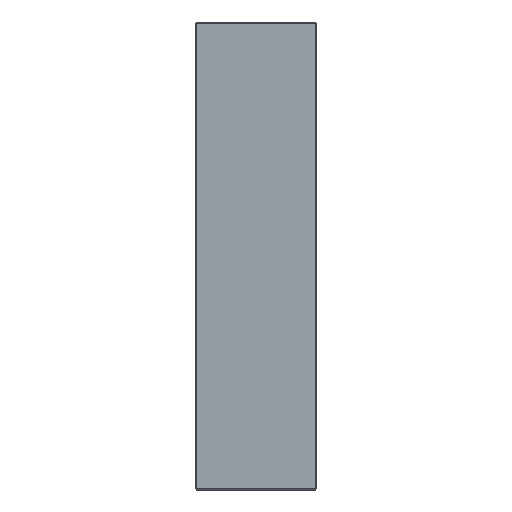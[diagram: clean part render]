
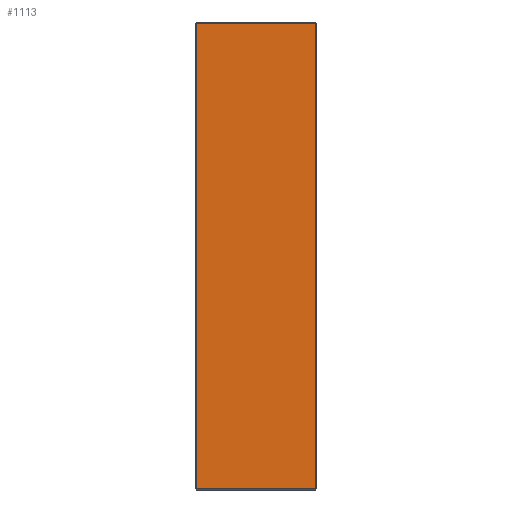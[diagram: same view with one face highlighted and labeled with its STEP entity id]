
A CAD part, left-side view. The second image highlights one B-rep face of the part: STEP entity #1113.
In plain terms, the highlighted planar face has unit normal (-1, 0, 0).
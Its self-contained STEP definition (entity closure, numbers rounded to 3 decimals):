
#1 = CARTESIAN_POINT ( 'NONE',  ( -223., 116., 223. ) ) ;
#12 = LINE ( 'NONE', #1258, #1778 ) ;
#74 = EDGE_CURVE ( 'NONE', #1705, #884, #380, .T. ) ;
#88 = EDGE_LOOP ( 'NONE', ( #1043, #856, #829, #827 ) ) ;
#166 = DIRECTION ( 'NONE',  ( 1., 0., 0. ) ) ;
#328 = VECTOR ( 'NONE', #1099, 1000. ) ;
#338 = PLANE ( 'NONE',  #799 ) ;
#364 = EDGE_CURVE ( 'NONE', #884, #757, #1901, .T. ) ;
#380 = LINE ( 'NONE', #1765, #328 ) ;
#439 = CARTESIAN_POINT ( 'NONE',  ( -223., 115., 223. ) ) ;
#570 = VERTEX_POINT ( 'NONE', #766 ) ;
#757 = VERTEX_POINT ( 'NONE', #776 ) ;
#766 = CARTESIAN_POINT ( 'NONE',  ( -223., 115., -222. ) ) ;
#776 = CARTESIAN_POINT ( 'NONE',  ( -223., 115., 222. ) ) ;
#799 = AXIS2_PLACEMENT_3D ( 'NONE', #1, #166, #930 ) ;
#827 = ORIENTED_EDGE ( 'NONE', *, *, #74, .T. ) ;
#829 = ORIENTED_EDGE ( 'NONE', *, *, #1362, .T. ) ;
#837 = VECTOR ( 'NONE', #988, 1000. ) ;
#856 = ORIENTED_EDGE ( 'NONE', *, *, #913, .T. ) ;
#884 = VERTEX_POINT ( 'NONE', #1536 ) ;
#894 = CARTESIAN_POINT ( 'NONE',  ( -223., 1., -222. ) ) ;
#913 = EDGE_CURVE ( 'NONE', #757, #570, #1136, .T. ) ;
#930 = DIRECTION ( 'NONE',  ( 0., 0., -1. ) ) ;
#988 = DIRECTION ( 'NONE',  ( 0., 0., -1. ) ) ;
#1043 = ORIENTED_EDGE ( 'NONE', *, *, #364, .T. ) ;
#1099 = DIRECTION ( 'NONE',  ( 0., 0., 1. ) ) ;
#1113 = ADVANCED_FACE ( 'NONE', ( #1569 ), #338, .F. ) ;
#1136 = LINE ( 'NONE', #439, #837 ) ;
#1165 = VECTOR ( 'NONE', #1919, 1000. ) ;
#1258 = CARTESIAN_POINT ( 'NONE',  ( -223., 116., -222. ) ) ;
#1362 = EDGE_CURVE ( 'NONE', #570, #1705, #12, .T. ) ;
#1536 = CARTESIAN_POINT ( 'NONE',  ( -223., 1., 222. ) ) ;
#1555 = DIRECTION ( 'NONE',  ( 0., -1., 0. ) ) ;
#1569 = FACE_OUTER_BOUND ( 'NONE', #88, .T. ) ;
#1705 = VERTEX_POINT ( 'NONE', #894 ) ;
#1765 = CARTESIAN_POINT ( 'NONE',  ( -223., 1., 223. ) ) ;
#1778 = VECTOR ( 'NONE', #1555, 1000. ) ;
#1780 = CARTESIAN_POINT ( 'NONE',  ( -223., 116., 222. ) ) ;
#1901 = LINE ( 'NONE', #1780, #1165 ) ;
#1919 = DIRECTION ( 'NONE',  ( 0., 1., 0. ) ) ;
